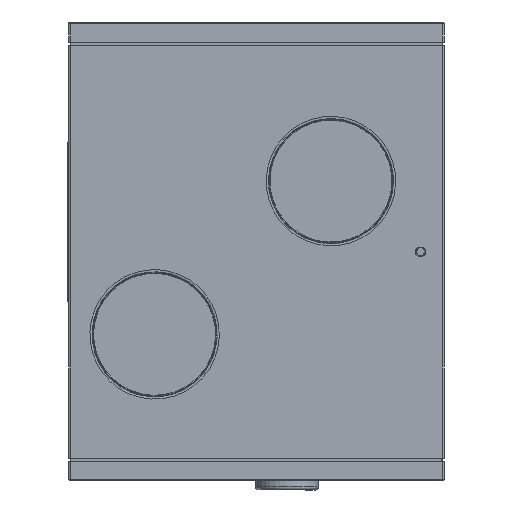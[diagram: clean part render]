
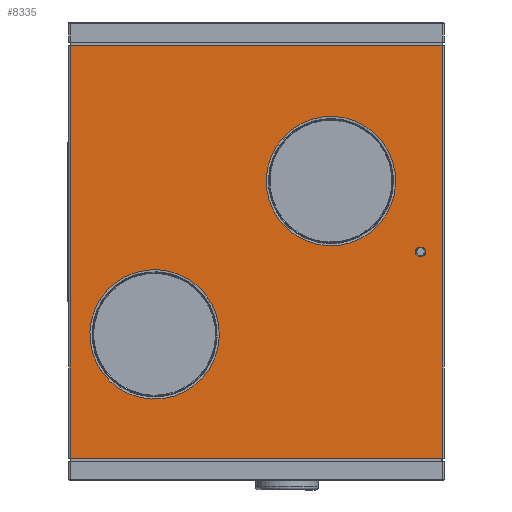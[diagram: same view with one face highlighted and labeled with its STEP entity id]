
A CAD part, left-side view. The second image highlights one B-rep face of the part: STEP entity #8335.
In plain terms, the highlighted planar face has unit normal (-1, 0, 0).
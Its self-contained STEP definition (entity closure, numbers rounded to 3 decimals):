
#92=FACE_BOUND('',#2806,.T.);
#93=FACE_BOUND('',#2807,.T.);
#94=FACE_BOUND('',#2808,.T.);
#256=ELLIPSE('',#8963,7.51,7.5);
#281=PLANE('',#8960);
#588=LINE('',#12438,#1317);
#657=LINE('',#12592,#1386);
#672=LINE('',#12645,#1401);
#673=LINE('',#12647,#1402);
#1317=VECTOR('',#9861,10.);
#1386=VECTOR('',#9960,10.);
#1401=VECTOR('',#10019,10.);
#1402=VECTOR('',#10022,10.);
#2245=FACE_OUTER_BOUND('',#2805,.T.);
#2805=EDGE_LOOP('',(#5953,#5954,#5955,#5956));
#2806=EDGE_LOOP('',(#5957));
#2807=EDGE_LOOP('',(#5958));
#2808=EDGE_LOOP('',(#5959));
#3516=CIRCLE('',#8961,100.);
#3517=CIRCLE('',#8962,100.);
#3862=VERTEX_POINT('',#12435);
#3863=VERTEX_POINT('',#12437);
#3933=VERTEX_POINT('',#12590);
#3949=VERTEX_POINT('',#12643);
#3986=VERTEX_POINT('',#12765);
#3987=VERTEX_POINT('',#12767);
#3988=VERTEX_POINT('',#12769);
#4594=EDGE_CURVE('',#3862,#3863,#588,.T.);
#4671=EDGE_CURVE('',#3933,#3862,#657,.T.);
#4697=EDGE_CURVE('',#3863,#3949,#672,.T.);
#4698=EDGE_CURVE('',#3949,#3933,#673,.T.);
#4757=EDGE_CURVE('',#3986,#3986,#3516,.T.);
#4758=EDGE_CURVE('',#3987,#3987,#3517,.T.);
#4759=EDGE_CURVE('',#3988,#3988,#256,.T.);
#5953=ORIENTED_EDGE('',*,*,#4671,.F.);
#5954=ORIENTED_EDGE('',*,*,#4698,.F.);
#5955=ORIENTED_EDGE('',*,*,#4697,.F.);
#5956=ORIENTED_EDGE('',*,*,#4594,.F.);
#5957=ORIENTED_EDGE('',*,*,#4757,.F.);
#5958=ORIENTED_EDGE('',*,*,#4758,.F.);
#5959=ORIENTED_EDGE('',*,*,#4759,.F.);
#8335=ADVANCED_FACE('',(#2245,#92,#93,#94),#281,.T.);
#8960=AXIS2_PLACEMENT_3D('',#12764,#10142,#10143);
#8961=AXIS2_PLACEMENT_3D('',#12766,#10144,#10145);
#8962=AXIS2_PLACEMENT_3D('',#12768,#10146,#10147);
#8963=AXIS2_PLACEMENT_3D('',#12770,#10148,#10149);
#9861=DIRECTION('',(0.,1.,0.));
#9960=DIRECTION('',(0.,0.,-1.));
#10019=DIRECTION('',(0.,0.,1.));
#10022=DIRECTION('',(0.,-1.,0.));
#10142=DIRECTION('center_axis',(-1.,0.,0.));
#10143=DIRECTION('ref_axis',(0.,1.,0.));
#10144=DIRECTION('center_axis',(-1.,0.,0.));
#10145=DIRECTION('ref_axis',(0.,-0.383,0.924));
#10146=DIRECTION('center_axis',(-1.,0.,0.));
#10147=DIRECTION('ref_axis',(0.,0.924,0.383));
#10148=DIRECTION('center_axis',(-1.,0.,0.));
#10149=DIRECTION('ref_axis',(0.,-1.,0.));
#12435=CARTESIAN_POINT('',(-592.5,-567.482,-330.));
#12437=CARTESIAN_POINT('',(-592.5,28.518,-330.));
#12438=CARTESIAN_POINT('',(-592.5,-569.482,-330.));
#12590=CARTESIAN_POINT('',(-592.5,-567.482,330.));
#12592=CARTESIAN_POINT('',(-592.5,-567.482,-8.25));
#12643=CARTESIAN_POINT('',(-592.5,28.518,330.));
#12645=CARTESIAN_POINT('',(-592.5,28.518,0.));
#12647=CARTESIAN_POINT('',(-592.5,30.518,330.));
#12764=CARTESIAN_POINT('Origin',(-592.5,-569.482,-330.));
#12765=CARTESIAN_POINT('',(-592.5,-69.482,-224.903));
#12766=CARTESIAN_POINT('Origin',(-592.5,-106.482,-132.));
#12767=CARTESIAN_POINT('',(-592.5,-480.836,74.732));
#12768=CARTESIAN_POINT('Origin',(-592.5,-388.448,113.));
#12769=CARTESIAN_POINT('',(-592.5,-523.392,0.));
#12770=CARTESIAN_POINT('Origin',(-592.5,-530.903,0.));
